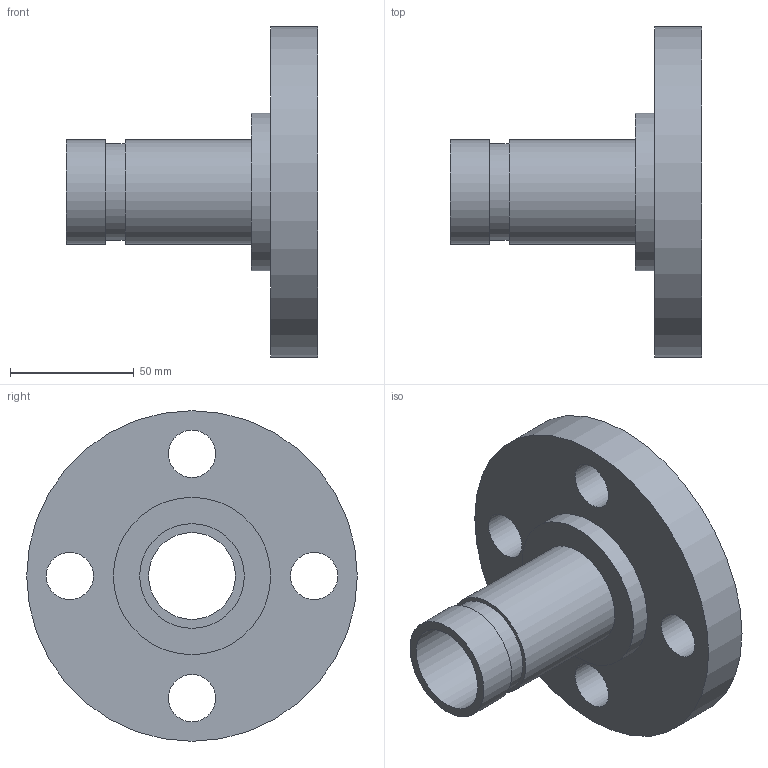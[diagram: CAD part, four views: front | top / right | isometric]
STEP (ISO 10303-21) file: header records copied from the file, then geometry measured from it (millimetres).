
FILE_DESCRIPTION(/* description */ ('VIC FLANGE ADAPTER No 46F','CAx-IF Rec.Pracs.---Representation and Presentation of Product Manufacturing Information (PMI)---4.0---2014-10-13'),/* implementation_level */ '2;1');
FILE_NAME(/* name */ 'C:\Users\kkamble\AppData\Roaming\Autodesk\ApplicationPlugins\Back Up\Victaulic_IPS_Flanged Adapter Nipple_CL 300 FF_No 46F (OGSxFLG)\Victaulic_IPS_Flanged Adapter Nipple_CL 300 FF_No 46F (OGSxFLG)_1.25 (32).stp',/* time_stamp */ '2020-07-26T22:24:35+06:00',/* author */ ('CONSTRUCTION PIPING SERVICES'),/* organization */ ('Victaulic'),/* preprocessor_version */ 'ST-DEVELOPER v17.2',/* originating_system */ 'Autodesk Inventor 2019',/* authorisation */ '');
FILE_SCHEMA (('AP242_MANAGED_MODEL_BASED_3D_ENGINEERING_MIM_LF { 1 0 10303 442 1 1 4 }'));
Length unit declared in the file: inch
Products named in the file (1): 046F-01.25
Bounding box: 101.6 x 133.35 x 133.35 mm (x, y, z)
Volume: 273890.9 mm3; surface area: 59239.2 mm2
Topology: 1 solids, 1 shells, 16 faces, 42 edges, 32 vertices
Faces by surface type: cylinder 10, plane 6
Full cylindrical faces by diameter (mm): 19.05 x4, 35.052 x1, 38.989 x1, 42.164 x2, 63.5 x1, 133.35 x1
Entity records: 622 total; most frequent: DIRECTION 108, CARTESIAN_POINT 91, ORIENTED_EDGE 84, AXIS2_PLACEMENT_3D 49, EDGE_CURVE 42, CIRCLE 32, VERTEX_POINT 32, EDGE_LOOP 30
